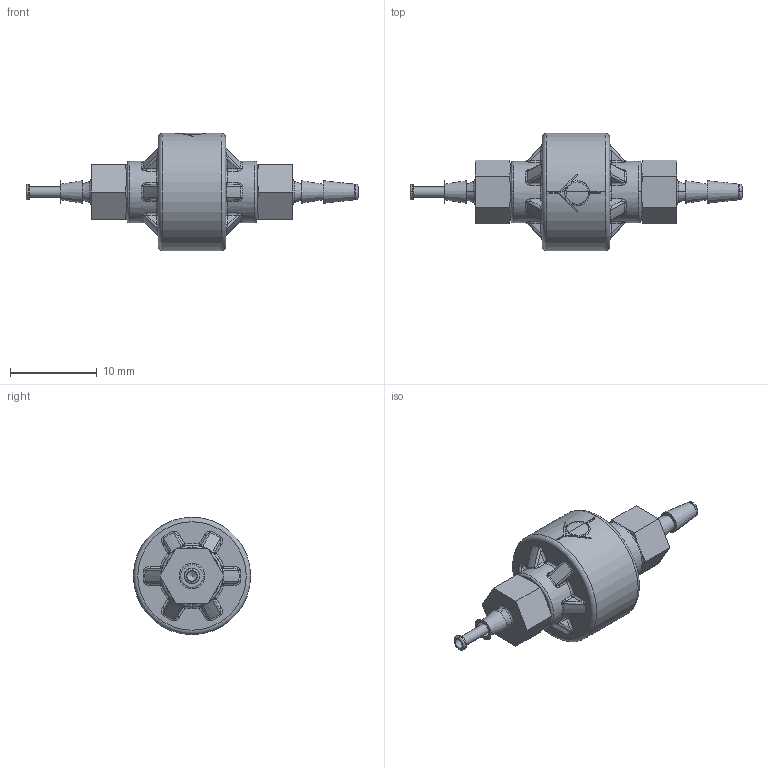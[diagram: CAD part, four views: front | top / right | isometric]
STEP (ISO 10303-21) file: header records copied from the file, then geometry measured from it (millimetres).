
FILE_DESCRIPTION(/* description */ ('SolidWorks IGES file using NURBS representation for surfaces '),/* implementation_level */ '2;1');
FILE_NAME(/* name */ 'K:\Normteile INVENTOR\Air-Logic\Check Valves\F-2804-404-B80.IGS.ipt.stp',/* time_stamp */ '2020-05-27T10:36:17+02:00',/* author */ ('amarsh'),/* organization */ (''),/* preprocessor_version */ 'ST-DEVELOPER v18',/* originating_system */ 'Autodesk Inventor 2020',/* authorisation */ '');
FILE_SCHEMA (('AUTOMOTIVE_DESIGN { 1 0 10303 214 3 1 1 }'));
Length unit declared in the file: millimetre
Products named in the file (1): F-2804-404-B80.IGS
Bounding box: 38.25 x 13.5 x 13.5 mm (x, y, z)
Volume: 342.4 mm3; surface area: 1670.3 mm2
Topology: 3 solids, 5 shells, 347 faces, 847 edges, 508 vertices
Faces by surface type: cylinder 89, bspline 89, plane 63, torus 54, cone 28, sphere 24
Full cylindrical faces by diameter (mm): 1.17 x2, 1.35 x1, 1.8 x2, 2.36 x3, 4.039 x2, 4.75 x8, 4.9 x1, 5.5 x1, 7.1 x2
Entity records: 19175 total; most frequent: CARTESIAN_POINT 11176, ORIENTED_EDGE 1654, DIRECTION 1551, EDGE_CURVE 831, AXIS2_PLACEMENT_3D 674, VERTEX_POINT 508, CIRCLE 397, EDGE_LOOP 369
